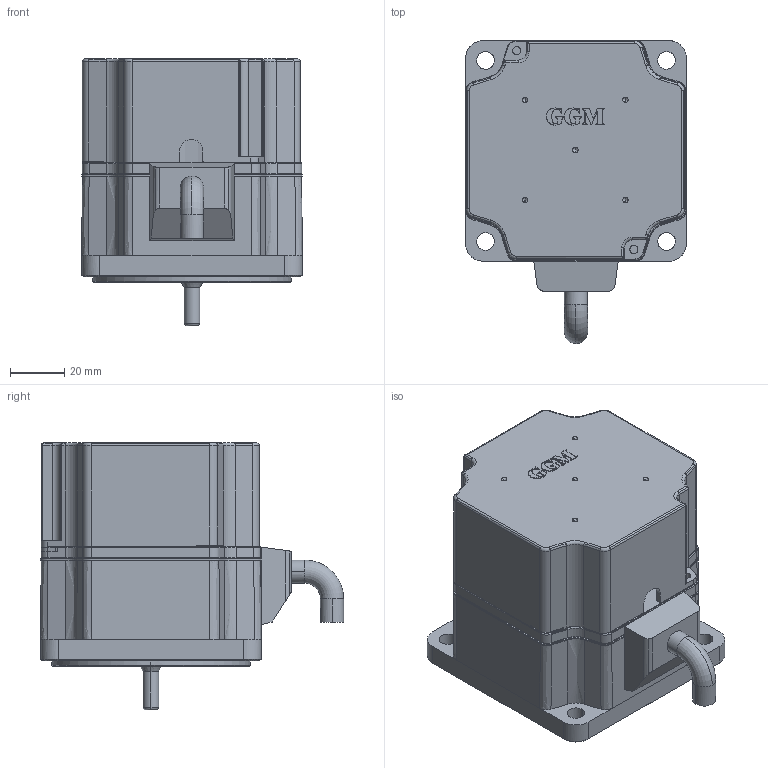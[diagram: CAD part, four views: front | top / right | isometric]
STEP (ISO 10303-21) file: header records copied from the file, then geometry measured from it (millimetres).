
FILE_DESCRIPTION (( 'STEP AP214' ), '1' );
FILE_NAME ('F Series 60w_brake_H.STEP', '2023-01-09T07:32:12', ( '' ), ( '' ), 'SwSTEP 2.0', 'SolidWorks 2022', '' );
FILE_SCHEMA (( 'AUTOMOTIVE_DESIGN' ));
Length unit declared in the file: millimetre
Products named in the file (4): B Series 60w_brake_H.stp; F Series 60w_brake_H; K8BH60N﹤.stp; BRAKE COVER 譆謙.stp
Assembly tree (3 placements, depth 3):
  F Series 60w_brake_H
    B Series 60w_brake_H.stp
      K8BH60N﹤.stp
      BRAKE COVER 譆謙.stp
Bounding box: 81.1 x 111.3 x 98.3 mm (x, y, z)
Volume: 307998.9 mm3; surface area: 71811.5 mm2
Topology: 11 solids, 11 shells, 519 faces, 1332 edges, 839 vertices
Faces by surface type: cylinder 208, plane 195, bspline 50, cone 38, torus 28
Entity records: 18756 total; most frequent: CARTESIAN_POINT 7000, ORIENTED_EDGE 2636, DIRECTION 1899, EDGE_CURVE 1318, VERTEX_POINT 839, AXIS2_PLACEMENT_3D 702, B_SPLINE_CURVE_WITH_KNOTS 597, EDGE_LOOP 549
